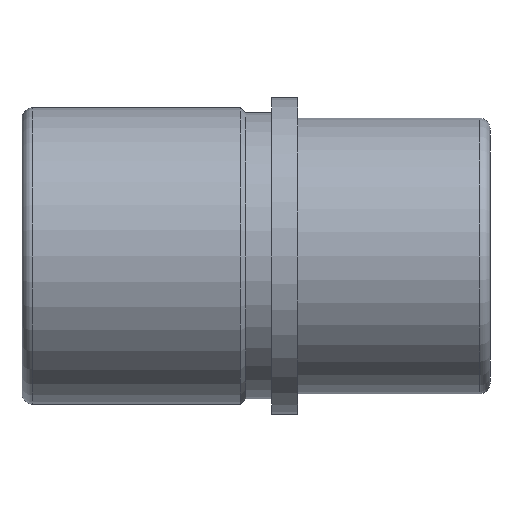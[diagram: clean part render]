
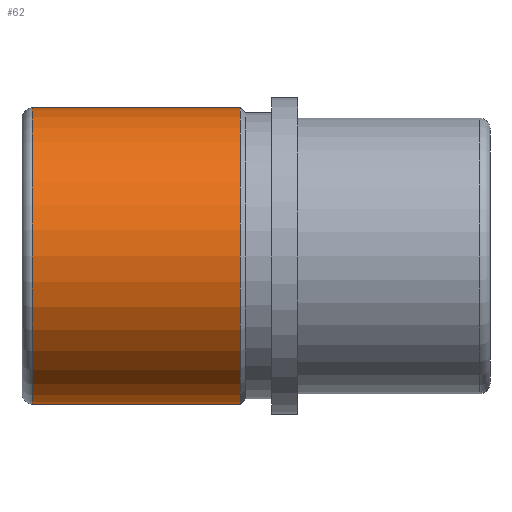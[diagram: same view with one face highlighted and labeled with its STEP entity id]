
A CAD part, front view. The second image highlights one B-rep face of the part: STEP entity #62.
In plain terms, the highlighted cylindrical face has radius 28.5 mm (diameter 57 mm), a full revolution.
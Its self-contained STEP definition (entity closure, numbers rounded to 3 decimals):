
#62 = ADVANCED_FACE( '', ( #131, #132 ), #133, .T. );
#131 = FACE_OUTER_BOUND( '', #194, .T. );
#132 = FACE_OUTER_BOUND( '', #195, .T. );
#133 = CYLINDRICAL_SURFACE( '', #196, 28.5 );
#194 = EDGE_LOOP( '', ( #275 ) );
#195 = EDGE_LOOP( '', ( #276 ) );
#196 = AXIS2_PLACEMENT_3D( '', #277, #278, #279 );
#275 = ORIENTED_EDGE( '', *, *, #300, .T. );
#276 = ORIENTED_EDGE( '', *, *, #310, .F. );
#277 = CARTESIAN_POINT( '', ( 37., 0., 0. ) );
#278 = DIRECTION( '', ( -1., 0., 0. ) );
#279 = DIRECTION( '', ( 0., 0., -1. ) );
#300 = EDGE_CURVE( '', #336, #336, #337, .T. );
#310 = EDGE_CURVE( '', #351, #351, #352, .T. );
#336 = VERTEX_POINT( '', #378 );
#337 = CIRCLE( '', #379, 28.5 );
#351 = VERTEX_POINT( '', #393 );
#352 = CIRCLE( '', #394, 28.5 );
#378 = CARTESIAN_POINT( '', ( -51., 0., -28.5 ) );
#379 = AXIS2_PLACEMENT_3D( '', #422, #423, #424 );
#393 = CARTESIAN_POINT( '', ( -11., 0., -28.5 ) );
#394 = AXIS2_PLACEMENT_3D( '', #437, #438, #439 );
#422 = CARTESIAN_POINT( '', ( -51., 0., 0. ) );
#423 = DIRECTION( '', ( 1., 0., 0. ) );
#424 = DIRECTION( '', ( 0., 0., -1. ) );
#437 = CARTESIAN_POINT( '', ( -11., 0., 0. ) );
#438 = DIRECTION( '', ( 1., 0., 0. ) );
#439 = DIRECTION( '', ( 0., 0., -1. ) );
